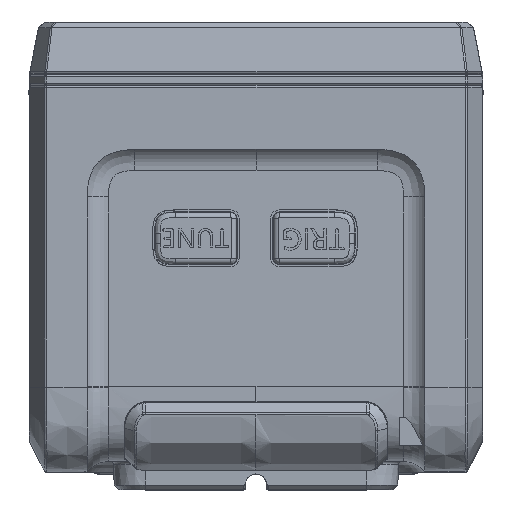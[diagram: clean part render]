
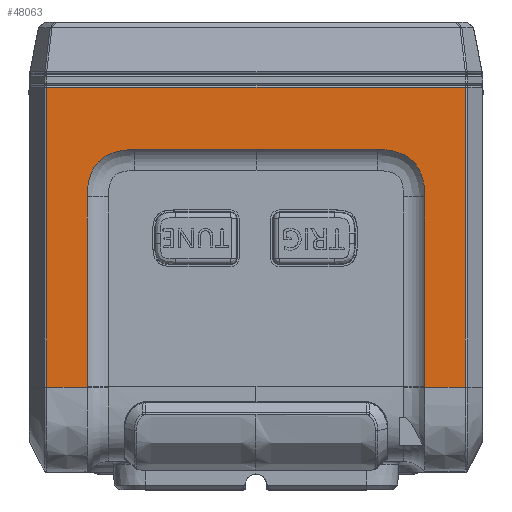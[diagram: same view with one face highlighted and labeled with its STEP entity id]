
A CAD part, top view. The second image highlights one B-rep face of the part: STEP entity #48063.
In plain terms, the highlighted planar face has unit normal (0, 0, 1).
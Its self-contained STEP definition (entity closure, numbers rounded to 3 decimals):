
#9944=CARTESIAN_POINT('',(-66.603,-13.4,
169.638));
#9946=DIRECTION('',(1.,0.,0.));
#9947=VECTOR('',#9946,3.815);
#9948=CARTESIAN_POINT('',(-66.603,-13.4,
169.638));
#9949=LINE('',#9948,#9947);
#12773=CARTESIAN_POINT('',(-82.603,9.122,
169.638));
#12780=DIRECTION('',(1.,0.,0.));
#12781=VECTOR('',#12780,11.5);
#12782=CARTESIAN_POINT('',(-82.603,9.122,
169.638));
#12783=LINE('',#12782,#12781);
#12784=CARTESIAN_POINT('',(-71.103,9.122,
169.638));
#12793=DIRECTION('',(0.,-1.,0.));
#12794=VECTOR('',#12793,28.4);
#12795=CARTESIAN_POINT('',(-102.418,15.,169.638));
#12796=LINE('',#12795,#12794);
#12797=DIRECTION('',(1.,0.,0.));
#12798=VECTOR('',#12797,39.629);
#12799=CARTESIAN_POINT('',(-102.418,15.,169.638));
#12800=LINE('',#12799,#12798);
#12801=DIRECTION('',(0.,1.,0.));
#12802=VECTOR('',#12801,28.4);
#12803=CARTESIAN_POINT('',(-62.789,-13.4,
169.638));
#12804=LINE('',#12803,#12802);
#12805=CARTESIAN_POINT('',(-66.603,4.622,
169.638));
#12806=CARTESIAN_POINT('',(-66.603,4.881,
169.638));
#12807=CARTESIAN_POINT('',(-66.624,5.373,
169.638));
#12808=CARTESIAN_POINT('',(-66.736,6.114,
169.638));
#12809=CARTESIAN_POINT('',(-66.942,6.81,
169.638));
#12810=CARTESIAN_POINT('',(-67.264,7.456,
169.638));
#12811=CARTESIAN_POINT('',(-67.716,8.023,
169.638));
#12812=CARTESIAN_POINT('',(-68.282,8.469,
169.638));
#12813=CARTESIAN_POINT('',(-68.922,8.785,
169.638));
#12814=CARTESIAN_POINT('',(-69.612,8.989,
169.638));
#12815=CARTESIAN_POINT('',(-70.351,9.101,
169.638));
#12816=CARTESIAN_POINT('',(-70.844,9.122,
169.638));
#12817=CARTESIAN_POINT('',(-71.103,9.122,
169.638));
#12819=DIRECTION('',(-1.,0.,0.));
#12820=VECTOR('',#12819,11.5);
#12821=CARTESIAN_POINT('',(-82.603,9.122,
169.638));
#12822=LINE('',#12821,#12820);
#12823=CARTESIAN_POINT('',(-94.103,9.122,
169.638));
#12824=CARTESIAN_POINT('',(-94.362,9.122,
169.638));
#12825=CARTESIAN_POINT('',(-94.854,9.101,
169.638));
#12826=CARTESIAN_POINT('',(-95.595,8.989,
169.638));
#12827=CARTESIAN_POINT('',(-96.292,8.783,
169.638));
#12828=CARTESIAN_POINT('',(-96.938,8.461,
169.638));
#12829=CARTESIAN_POINT('',(-97.504,8.009,
169.638));
#12830=CARTESIAN_POINT('',(-97.951,7.443,
169.638));
#12831=CARTESIAN_POINT('',(-98.267,6.804,
169.638));
#12832=CARTESIAN_POINT('',(-98.471,6.113,
169.638));
#12833=CARTESIAN_POINT('',(-98.583,5.374,
169.638));
#12834=CARTESIAN_POINT('',(-98.603,4.881,
169.638));
#12835=CARTESIAN_POINT('',(-98.603,4.622,
169.638));
#12837=DIRECTION('',(0.,-1.,0.));
#12838=VECTOR('',#12837,17.976);
#12839=CARTESIAN_POINT('',(-98.603,4.622,
169.638));
#12840=LINE('',#12839,#12838);
#12841=DIRECTION('',(0.,-1.,0.));
#12842=VECTOR('',#12841,0.046);
#12843=CARTESIAN_POINT('',(-98.603,-13.354,
169.638));
#12844=LINE('',#12843,#12842);
#12869=DIRECTION('',(1.,0.,0.));
#12870=VECTOR('',#12869,3.815);
#12871=CARTESIAN_POINT('',(-102.418,-13.4,
169.638));
#12872=LINE('',#12871,#12870);
#24591=DIRECTION('',(0.,-1.,0.));
#24592=VECTOR('',#24591,0.046);
#24593=CARTESIAN_POINT('',(-66.603,-13.354,
169.638));
#24594=LINE('',#24593,#24592);
#24604=DIRECTION('',(0.,-1.,0.));
#24605=VECTOR('',#24604,17.976);
#24606=CARTESIAN_POINT('',(-66.603,4.622,
169.638));
#24607=LINE('',#24606,#24605);
#24608=CARTESIAN_POINT('',(-66.603,-13.354,
169.638));
#24613=CARTESIAN_POINT('',(-66.603,4.622,
169.638));
#26634=VERTEX_POINT('',#12823);
#26635=VERTEX_POINT('',#12835);
#26636=CARTESIAN_POINT('',(-98.603,-13.354,
169.638));
#26637=VERTEX_POINT('',#26636);
#26638=CARTESIAN_POINT('',(-98.603,-13.4,
169.638));
#26639=VERTEX_POINT('',#26638);
#26712=VERTEX_POINT('',#9944);
#26714=VERTEX_POINT('',#24608);
#26715=VERTEX_POINT('',#24613);
#26716=VERTEX_POINT('',#12784);
#26750=VERTEX_POINT('',#12773);
#27257=CARTESIAN_POINT('',(-102.418,15.,169.638));
#27258=CARTESIAN_POINT('',(-102.418,-13.4,
169.638));
#27259=VERTEX_POINT('',#27257);
#27260=VERTEX_POINT('',#27258);
#27291=CARTESIAN_POINT('',(-62.789,-13.4,
169.638));
#27292=CARTESIAN_POINT('',(-62.789,15.,169.638));
#27293=VERTEX_POINT('',#27291);
#27294=VERTEX_POINT('',#27292);
#48033=CARTESIAN_POINT('',(-103.033,-13.686,
169.638));
#48034=DIRECTION('',(0.,0.,1.));
#48035=DIRECTION('',(1.,0.,0.));
#48036=AXIS2_PLACEMENT_3D('',#48033,#48034,#48035);
#48037=PLANE('',#48036);
#48039=ORIENTED_EDGE('',*,*,#48038,.F.);
#48041=ORIENTED_EDGE('',*,*,#48040,.T.);
#48043=ORIENTED_EDGE('',*,*,#48042,.F.);
#48044=ORIENTED_EDGE('',*,*,#43776,.F.);
#48046=ORIENTED_EDGE('',*,*,#48045,.F.);
#48048=ORIENTED_EDGE('',*,*,#48047,.F.);
#48050=ORIENTED_EDGE('',*,*,#48049,.T.);
#48051=ORIENTED_EDGE('',*,*,#48025,.F.);
#48052=ORIENTED_EDGE('',*,*,#48009,.T.);
#48054=ORIENTED_EDGE('',*,*,#48053,.T.);
#48056=ORIENTED_EDGE('',*,*,#48055,.T.);
#48058=ORIENTED_EDGE('',*,*,#48057,.T.);
#48060=ORIENTED_EDGE('',*,*,#48059,.F.);
#48061=EDGE_LOOP('',(#48039,#48041,#48043,#48044,#48046,#48048,#48050,#48051,
#48052,#48054,#48056,#48058,#48060));
#48062=FACE_OUTER_BOUND('',#48061,.F.);
#48063=ADVANCED_FACE('',(#48062),#48037,.T.);
#12818=B_SPLINE_CURVE_WITH_KNOTS('',3,(#12805,#12806,#12807,#12808,#12809,
#12810,#12811,#12812,#12813,#12814,#12815,#12816,#12817),.UNSPECIFIED.,.F.,.F.,(
4,1,1,1,1,1,1,1,1,1,4),(0.,0.119,0.227,
0.327,0.417,0.501,0.585,
0.674,0.772,0.881,1.),.UNSPECIFIED.);
#12836=B_SPLINE_CURVE_WITH_KNOTS('',3,(#12823,#12824,#12825,#12826,#12827,
#12828,#12829,#12830,#12831,#12832,#12833,#12834,#12835),.UNSPECIFIED.,.F.,.F.,(
4,1,1,1,1,1,1,1,1,1,4),(0.,0.119,0.227,
0.327,0.417,0.501,0.585,
0.674,0.772,0.881,1.),.UNSPECIFIED.);
#43776=EDGE_CURVE('',#26712,#27293,#9949,.T.);
#48009=EDGE_CURVE('',#26750,#26634,#12822,.T.);
#48025=EDGE_CURVE('',#26750,#26716,#12783,.T.);
#48038=EDGE_CURVE('',#27259,#27260,#12796,.T.);
#48040=EDGE_CURVE('',#27259,#27294,#12800,.T.);
#48042=EDGE_CURVE('',#27293,#27294,#12804,.T.);
#48045=EDGE_CURVE('',#26714,#26712,#24594,.T.);
#48047=EDGE_CURVE('',#26715,#26714,#24607,.T.);
#48049=EDGE_CURVE('',#26715,#26716,#12818,.T.);
#48053=EDGE_CURVE('',#26634,#26635,#12836,.T.);
#48055=EDGE_CURVE('',#26635,#26637,#12840,.T.);
#48057=EDGE_CURVE('',#26637,#26639,#12844,.T.);
#48059=EDGE_CURVE('',#27260,#26639,#12872,.T.);
